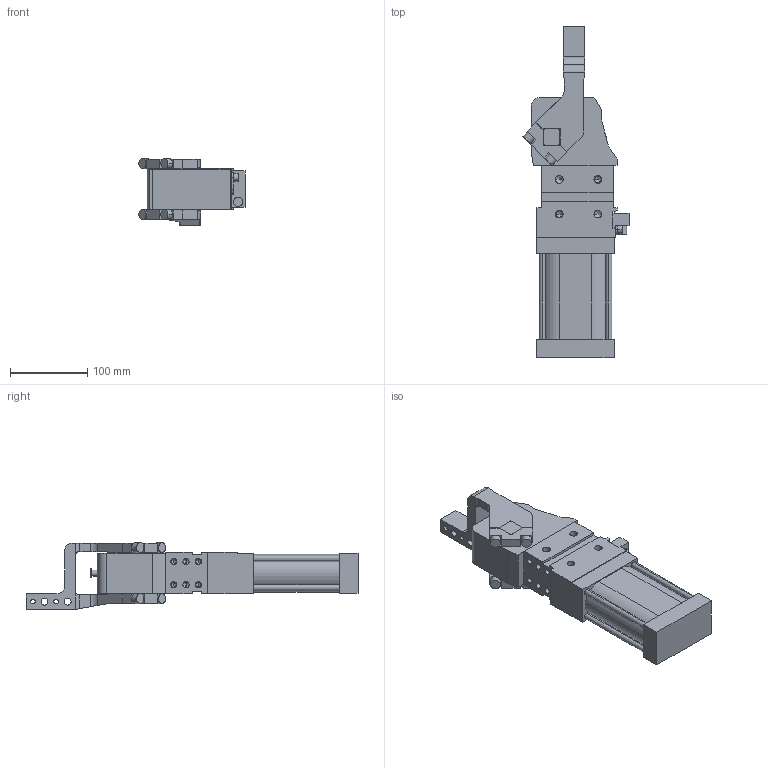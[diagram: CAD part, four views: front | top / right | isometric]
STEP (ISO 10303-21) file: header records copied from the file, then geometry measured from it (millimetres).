
FILE_DESCRIPTION (( 'STEP AP214' ), '1' );
FILE_NAME ('cpl63h1dsi1g_75.STEP', '2023-01-26T10:26:11', ( '' ), ( '' ), 'SwSTEP 2.0', 'SolidWorks 2022', '' );
FILE_SCHEMA (( 'AUTOMOTIVE_DESIGN' ));
Length unit declared in the file: millimetre
Products named in the file (4): leva_dx_offset_15_cpl63; meccanica_cpl_63; cpl63h1dsi1g_75; blocchetto_VEP_0
Assembly tree (3 placements, depth 2):
  cpl63h1dsi1g_75
    meccanica_cpl_63
    blocchetto_VEP_0
    leva_dx_offset_15_cpl63
Bounding box: 137.59 x 430.5 x 86.5 mm (x, y, z)
Volume: 1787113 mm3; surface area: 189079 mm2
Topology: 3 solids, 3 shells, 396 faces, 1037 edges, 639 vertices
Faces by surface type: plane 198, cylinder 148, cone 50
Entity records: 13449 total; most frequent: CARTESIAN_POINT 2134, DIRECTION 2109, ORIENTED_EDGE 1982, EDGE_CURVE 991, AXIS2_PLACEMENT_3D 728, VECTOR 653, LINE 653, VERTEX_POINT 639
